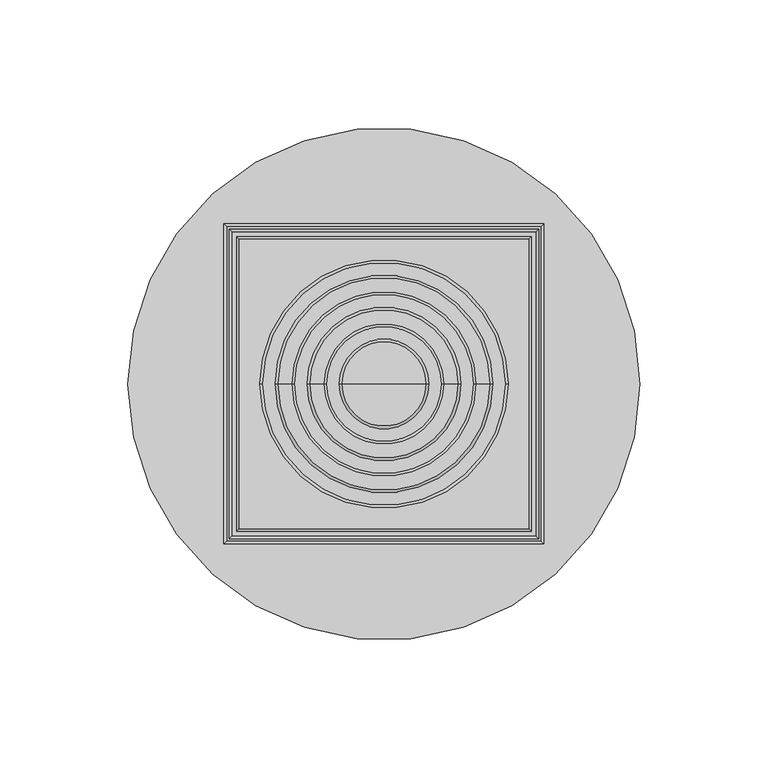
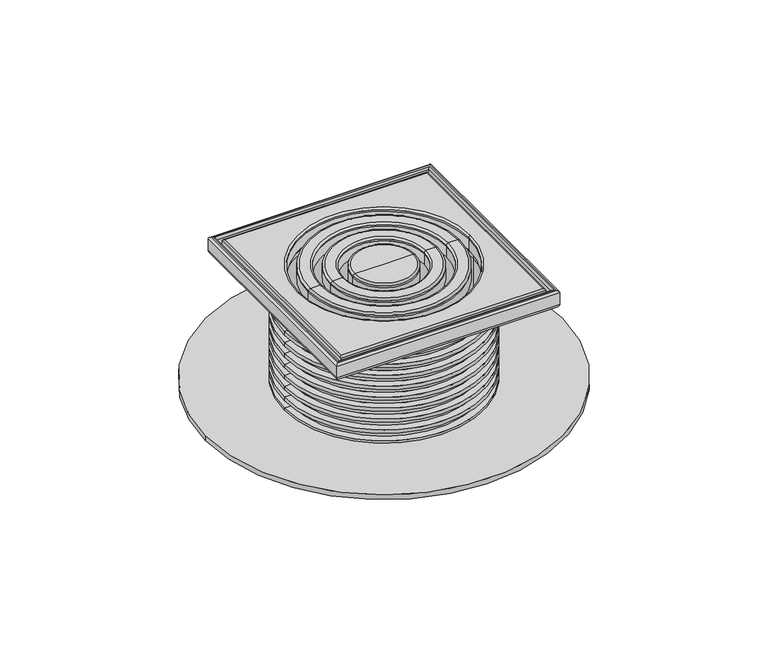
"""IFC4 building model written with IfcOpenShell, lengths in millimetres: flow terminal geometry."""

from ifc_helpers import new_model, si_unit, point, frame, origin, origin_with_axes, origin_2d, place, context, project, spatial, polyline, circle_curve, ellipse_curve, trimmed, segment, composite_curve, outline, extrude, source, transform, mapped, element, save
from ifc_brep_helpers import plane_surface, cylinder_surface, revolved_surface, advanced_brep


def flow_terminal_e0a92d88(model_context):
    return source(origin(), model_context, "Body", "SolidModel", [
        advanced_brep(
        [(59.5, -59.5, -8.0), (59.5, 59.5, -8.0), (-59.5, 59.5, -8.0), (-59.5, -59.5, -8.0), (0.0, -55.0, -8.0), (0.0, 55.0, -8.0), (60.5, 60.5, -10.0), (60.5, -60.5, -10.0), (-60.5, -60.5, -10.0), (-60.5, 60.5, -10.0), (56.5, 0.0, -10.0), (-56.5, 0.0, -10.0), (0.0, -55.0, -10.0), (-55.0, 0.0, -10.0), (0.0, 55.0, -10.0), (55.0, 0.0, -10.0), (62.5, 62.5, -8.0), (62.5, -62.5, -8.0), (59.5, -59.5, -1.0), (59.5, 59.5, -1.0), (62.5, 62.5, -1.0), (61.5, 61.5, 0.0), (61.5, -61.5, 0.0), (62.5, -62.5, -1.0), (-62.5, -62.5, -8.0), (-59.5, -59.5, -1.0), (-61.5, -61.5, 0.0), (-62.5, -62.5, -1.0), (-62.5, 62.5, -8.0), (-59.5, 59.5, -1.0), (-61.5, 61.5, 0.0), (-62.5, 62.5, -1.0), (60.5, -60.5, 0.0), (-60.5, -60.5, 0.0), (-60.5, 60.5, 0.0), (60.5, 60.5, 0.0), (-50.0, 0.0, -14.0), (50.0, 0.0, -14.0), (50.0, 0.0, -12.0), (-50.0, 0.0, -12.0), (-55.5, 0.0, -14.0), (55.5, 0.0, -14.0), (-51.0, 0.0, -10.0), (51.0, 0.0, -10.0), (-55.5, 0.0, -12.0), (55.5, 0.0, -12.0)],
        [
            (0, 1),
            (1, 2),
            (2, 3),
            (3, 0),
            (4, 5, circle_curve(frame((0.0, 0.0, -8.0), z_axis=(0.0, 0.0, -1.0), x_axis=(0.0, 1.0, 0.0)), 55.0)),
            (5, 4, circle_curve(frame((0.0, 0.0, -8.0), z_axis=(0.0, 0.0, -1.0), x_axis=(0.0, 1.0, 0.0)), 55.0)),
            (6, 7),
            (7, 8),
            (8, 9),
            (9, 6),
            (10, 11, circle_curve(frame((0.0, 0.0, -10.0), z_axis=(0.0, 0.0, 1.0), x_axis=(1.0, 0.0, 0.0)), 56.5)),
            (11, 10, circle_curve(frame((0.0, 0.0, -10.0), z_axis=(0.0, 0.0, 1.0), x_axis=(1.0, 0.0, 0.0)), 56.5)),
            (4, 12),
            (12, 13, circle_curve(frame((0.0, 0.0, -10.0), z_axis=(0.0, 0.0, -1.0), x_axis=(0.0, 1.0, 0.0)), 55.0)),
            (13, 14, circle_curve(frame((0.0, 0.0, -10.0), z_axis=(0.0, 0.0, -1.0), x_axis=(0.0, 1.0, 0.0)), 55.0)),
            (14, 5),
            (14, 15, circle_curve(frame((0.0, 0.0, -10.0), z_axis=(0.0, 0.0, -1.0), x_axis=(0.0, 1.0, 0.0)), 55.0)),
            (15, 12, circle_curve(frame((0.0, 0.0, -10.0), z_axis=(0.0, 0.0, -1.0), x_axis=(0.0, 1.0, 0.0)), 55.0)),
            (6, 16, ellipse_curve(frame((60.5, 60.5, -8.0), z_axis=(0.7071067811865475, -0.7071067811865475, 0.0), x_axis=(0.7071067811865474, 0.7071067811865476, 0.0)), 2.8284271, 2.0)),
            (16, 17),
            (17, 7, ellipse_curve(frame((60.5, -60.5, -8.0), z_axis=(0.7071067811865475, 0.7071067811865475, 0.0), x_axis=(-0.7071067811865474, 0.7071067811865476, 0.0)), 2.8284271, 2.0)),
            (18, 19),
            (19, 1),
            (0, 18),
            (20, 21, ellipse_curve(frame((61.5, 61.5, -1.0), z_axis=(0.7071067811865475, -0.7071067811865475, 0.0), x_axis=(0.7071067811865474, 0.7071067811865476, 0.0)), 1.4142136, 1.0)),
            (21, 22),
            (22, 23, ellipse_curve(frame((61.5, -61.5, -1.0), z_axis=(0.7071067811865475, 0.7071067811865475, 0.0), x_axis=(-0.7071067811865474, 0.7071067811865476, 0.0)), 1.4142136, 1.0)),
            (23, 20),
            (16, 20),
            (23, 17),
            (17, 24),
            (24, 8, ellipse_curve(frame((-60.5, -60.5, -8.0), z_axis=(0.7071067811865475, -0.7071067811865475, 0.0), x_axis=(0.7071067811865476, 0.7071067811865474, 0.0)), 2.8284271, 2.0)),
            (25, 18),
            (3, 25),
            (22, 26),
            (26, 27, ellipse_curve(frame((-61.5, -61.5, -1.0), z_axis=(0.7071067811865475, -0.7071067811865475, 0.0), x_axis=(0.7071067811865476, 0.7071067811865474, 0.0)), 1.4142136, 1.0)),
            (27, 23),
            (27, 24),
            (24, 28),
            (28, 9, ellipse_curve(frame((-60.5, 60.5, -8.0), z_axis=(-0.7071067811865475, -0.7071067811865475, 0.0), x_axis=(0.7071067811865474, -0.7071067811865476, 0.0)), 2.8284271, 2.0)),
            (29, 25),
            (2, 29),
            (26, 30),
            (30, 31, ellipse_curve(frame((-61.5, 61.5, -1.0), z_axis=(-0.7071067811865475, -0.7071067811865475, 0.0), x_axis=(0.7071067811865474, -0.7071067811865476, 0.0)), 1.4142136, 1.0)),
            (31, 27),
            (31, 28),
            (28, 16),
            (19, 29),
            (21, 30),
            (32, 33),
            (33, 34),
            (34, 35),
            (35, 32),
            (20, 31),
            (18, 32, ellipse_curve(frame((60.5, -60.5, -1.0), z_axis=(0.7071067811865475, 0.7071067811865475, 0.0), x_axis=(-0.7071067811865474, 0.7071067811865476, 0.0)), 1.4142136, 1.0)),
            (35, 19, ellipse_curve(frame((60.5, 60.5, -1.0), z_axis=(0.7071067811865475, -0.7071067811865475, 0.0), x_axis=(0.7071067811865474, 0.7071067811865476, 0.0)), 1.4142136, 1.0)),
            (25, 33, ellipse_curve(frame((-60.5, -60.5, -1.0), z_axis=(0.7071067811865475, -0.7071067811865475, 0.0), x_axis=(0.7071067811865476, 0.7071067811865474, 0.0)), 1.4142136, 1.0)),
            (29, 34, ellipse_curve(frame((-60.5, 60.5, -1.0), z_axis=(-0.7071067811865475, -0.7071067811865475, 0.0), x_axis=(0.7071067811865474, -0.7071067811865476, 0.0)), 1.4142136, 1.0)),
            (36, 37, circle_curve(frame((0.0, 0.0, -14.0), z_axis=(0.0, 0.0, -1.0), x_axis=(1.0, 0.0, 0.0)), 50.0)),
            (37, 38),
            (38, 39, circle_curve(frame((0.0, 0.0, -12.0), z_axis=(0.0, 0.0, 1.0), x_axis=(1.0, 0.0, 0.0)), 50.0)),
            (39, 36),
            (37, 36, circle_curve(frame((0.0, 0.0, -14.0), z_axis=(0.0, 0.0, -1.0), x_axis=(1.0, 0.0, 0.0)), 50.0)),
            (39, 38, circle_curve(frame((0.0, 0.0, -12.0), z_axis=(0.0, 0.0, 1.0), x_axis=(1.0, 0.0, 0.0)), 50.0)),
            (36, 40),
            (40, 41, circle_curve(frame((0.0, 0.0, -14.0), z_axis=(0.0, 0.0, -1.0), x_axis=(1.0, 0.0, 0.0)), 55.5)),
            (41, 37),
            (41, 40, circle_curve(frame((0.0, 0.0, -14.0), z_axis=(0.0, 0.0, -1.0), x_axis=(1.0, 0.0, 0.0)), 55.5)),
            (42, 43, circle_curve(frame((0.0, 0.0, -10.0), z_axis=(0.0, 0.0, -1.0), x_axis=(1.0, 0.0, 0.0)), 51.0)),
            (43, 15),
            (13, 42),
            (43, 42, circle_curve(frame((0.0, 0.0, -10.0), z_axis=(0.0, 0.0, -1.0), x_axis=(1.0, 0.0, 0.0)), 51.0)),
            (40, 44),
            (44, 45, circle_curve(frame((0.0, 0.0, -12.0), z_axis=(0.0, 0.0, -1.0), x_axis=(1.0, 0.0, 0.0)), 55.5)),
            (45, 41),
            (45, 44, circle_curve(frame((0.0, 0.0, -12.0), z_axis=(0.0, 0.0, -1.0), x_axis=(1.0, 0.0, 0.0)), 55.5)),
            (44, 11),
            (10, 45),
            (38, 43),
            (42, 39),
        ],
        [
            plane_surface(frame((-59.5, 59.5, -8.0), z_axis=(0.0, 0.0, 1.0), x_axis=(-1.0, 0.0, 0.0))),
            plane_surface(frame((-59.5, 59.5, -10.0), z_axis=(0.0, 0.0, -1.0), x_axis=(1.0, 0.0, 0.0))),
            revolved_surface(polyline([(0.0, 55.0, -10.0), (0.0, 55.0, -8.0)]), (0.0, 0.0, -10.0), (0.0, 0.0, -1.0)),
            cylinder_surface(frame((60.5, 62.5, -8.0), z_axis=(0.0, 1.0, 0.0), x_axis=(1.0, 0.0, 0.0)), 2.0),
            plane_surface(frame((59.5, 59.5, -10.0), z_axis=(-1.0, 0.0, 0.0), x_axis=(0.0, -1.0, 0.0))),
            cylinder_surface(frame((61.5, 62.5, -1.0), z_axis=(0.0, 1.0, 0.0), x_axis=(1.0, 0.0, 0.0)), 1.0),
            plane_surface(frame((62.5, 62.5, -1.0), z_axis=(1.0, 0.0, 0.0), x_axis=(0.0, -1.0, 0.0))),
            cylinder_surface(frame((62.5, -60.5, -8.0), z_axis=(1.0, 0.0, 0.0), x_axis=(0.0, -1.0, 0.0)), 2.0),
            plane_surface(frame((59.5, -59.5, -10.0), z_axis=(0.0, 1.0, 0.0), x_axis=(-1.0, 0.0, 0.0))),
            cylinder_surface(frame((62.5, -61.5, -1.0), z_axis=(1.0, 0.0, 0.0), x_axis=(0.0, -1.0, 0.0)), 1.0),
            plane_surface(frame((62.5, -62.5, -1.0), z_axis=(0.0, -1.0, 0.0), x_axis=(-1.0, 0.0, 0.0))),
            cylinder_surface(frame((-60.5, -62.5, -8.0), z_axis=(0.0, -1.0, 0.0), x_axis=(-1.0, 0.0, 0.0)), 2.0),
            plane_surface(frame((-59.5, -59.5, -10.0), z_axis=(1.0, 0.0, 0.0), x_axis=(0.0, 1.0, 0.0))),
            cylinder_surface(frame((-61.5, -62.5, -1.0), z_axis=(0.0, -1.0, 0.0), x_axis=(-1.0, 0.0, 0.0)), 1.0),
            plane_surface(frame((-62.5, -62.5, -1.0), z_axis=(-1.0, 0.0, 0.0), x_axis=(0.0, 1.0, 0.0))),
            cylinder_surface(frame((-62.5, 60.5, -8.0), z_axis=(-1.0, 0.0, 0.0), x_axis=(0.0, 1.0, 0.0)), 2.0),
            plane_surface(frame((-59.5, 59.5, -10.0), z_axis=(0.0, -1.0, 0.0), x_axis=(1.0, 0.0, 0.0))),
            plane_surface(frame((-60.5, 60.5, 0.0), z_axis=(0.0, 0.0, 1.0), x_axis=(1.0, 0.0, 0.0))),
            cylinder_surface(frame((-62.5, 61.5, -1.0), z_axis=(-1.0, 0.0, 0.0), x_axis=(0.0, 1.0, 0.0)), 1.0),
            plane_surface(frame((-62.5, 62.5, -1.0), z_axis=(0.0, 1.0, 0.0), x_axis=(1.0, 0.0, 0.0))),
            cylinder_surface(frame((60.5, 62.5, -1.0), z_axis=(0.0, 1.0, 0.0), x_axis=(1.0, 0.0, 0.0)), 1.0),
            cylinder_surface(frame((62.5, -60.5, -1.0), z_axis=(1.0, 0.0, 0.0), x_axis=(0.0, -1.0, 0.0)), 1.0),
            cylinder_surface(frame((-60.5, -62.5, -1.0), z_axis=(0.0, -1.0, 0.0), x_axis=(-1.0, 0.0, 0.0)), 1.0),
            cylinder_surface(frame((-62.5, 60.5, -1.0), z_axis=(-1.0, 0.0, 0.0), x_axis=(0.0, 1.0, 0.0)), 1.0),
            revolved_surface(polyline([(50.0, 0.0, -12.0), (50.0, 0.0, -14.0)]), (0.0, 0.0, 2214.3150031), (0.0, 0.0, 1.0)),
            plane_surface(frame((0.0, 0.0, -14.0), z_axis=(0.0, 0.0, -1.0), x_axis=(1.0, 0.0, 0.0))),
            plane_surface(frame((0.0, 0.0, -10.0), z_axis=(0.0, 0.0, 1.0), x_axis=(1.0, 0.0, 0.0))),
            cylinder_surface(frame((0.0, 0.0, 2214.3150031), z_axis=(0.0, 0.0, 1.0), x_axis=(1.0, 0.0, 0.0)), 55.5),
            revolved_surface(polyline([(55.5, 0.0, -12.0), (56.5, 0.0, -10.0)]), (0.0, 0.0, 2214.3150031), (0.0, 0.0, 1.0)),
            revolved_surface(polyline([(51.0, 0.0, -10.0), (50.0, 0.0, -12.0)]), (0.0, 0.0, 2214.3150031), (0.0, 0.0, 1.0)),
        ],
        [
            (0, [[1, 2, 3, 4], [5, 6]]),
            (1, [[7, 8, 9, 10], [11, 12]]),
            (2, [[-5, 13, 14, 15, 16]]),
            (2, [[-6, -16, 17, 18, -13]]),
            (3, [[19, 20, 21, -7]]),
            (4, [[22, 23, -1, 24]]),
            (5, [[25, 26, 27, 28]]),
            (6, [[-20, 29, -28, 30]]),
            (7, [[-21, 31, 32, -8]]),
            (8, [[33, -24, -4, 34]]),
            (9, [[-27, 35, 36, 37]]),
            (10, [[-30, -37, 38, -31]]),
            (11, [[-32, 39, 40, -9]]),
            (12, [[41, -34, -3, 42]]),
            (13, [[-36, 43, 44, 45]]),
            (14, [[-38, -45, 46, -39]]),
            (15, [[-19, -10, -40, 47]]),
            (16, [[48, -42, -2, -23]]),
            (17, [[-26, 49, -43, -35], [50, 51, 52, 53]]),
            (18, [[-25, 54, -44, -49]]),
            (19, [[-29, -47, -46, -54]]),
            (20, [[-22, 55, -53, 56]]),
            (21, [[-33, 57, -50, -55]]),
            (22, [[-41, 58, -51, -57]]),
            (23, [[-48, -56, -52, -58]]),
            (24, [[59, 60, 61, 62]]),
            (24, [[-60, 63, -62, 64]]),
            (25, [[-59, 65, 66, 67]]),
            (25, [[-63, -67, 68, -65]]),
            (26, [[69, 70, -17, -15, 71]]),
            (26, [[72, -71, -14, -18, -70]]),
            (27, [[-66, 73, 74, 75]]),
            (27, [[-68, -75, 76, -73]]),
            (28, [[-74, 77, -11, 78]]),
            (28, [[-76, -78, -12, -77]]),
            (29, [[-61, 79, -69, 80]]),
            (29, [[-64, -80, -72, -79]]),
        ],
    ),
        advanced_brep(
        [(57.5, -57.5, -8.0), (-57.5, -57.5, -8.0), (-57.5, 57.5, -8.0), (57.5, 57.5, -8.0), (-47.5, 0.0, -8.0), (47.5, 0.0, -8.0), (57.5, 57.5, -1.0), (57.5, -57.5, -1.0), (-57.5, 57.5, -1.0), (-57.5, -57.5, -1.0), (47.5, 0.0, -2.0), (-47.5, 0.0, -2.0), (47.5, 0.0, -1.0), (-47.5, 0.0, -1.0), (-56.5, -56.5, 0.0), (56.5, -56.5, 0.0), (56.5, 56.5, 0.0), (-56.5, 56.5, 0.0), (-48.5, 0.0, 0.0), (48.5, 0.0, 0.0)],
        [
            (0, 1),
            (1, 2),
            (2, 3),
            (3, 0),
            (4, 5, circle_curve(frame((0.0, 0.0, -8.0), z_axis=(0.0, 0.0, 1.0), x_axis=(1.0, 0.0, 0.0)), 47.5)),
            (5, 4, circle_curve(frame((0.0, 0.0, -8.0), z_axis=(0.0, 0.0, 1.0), x_axis=(1.0, 0.0, 0.0)), 47.5)),
            (3, 6),
            (6, 7),
            (7, 0),
            (2, 8),
            (8, 6),
            (1, 9),
            (9, 8),
            (7, 9),
            (5, 10),
            (10, 11, circle_curve(frame((0.0, 0.0, -2.0), z_axis=(0.0, 0.0, 1.0), x_axis=(1.0, 0.0, 0.0)), 47.5)),
            (11, 4),
            (11, 10, circle_curve(frame((0.0, 0.0, -2.0), z_axis=(0.0, 0.0, 1.0), x_axis=(1.0, 0.0, 0.0)), 47.5)),
            (10, 12),
            (12, 13, circle_curve(frame((0.0, 0.0, -1.0), z_axis=(0.0, 0.0, 1.0), x_axis=(1.0, 0.0, 0.0)), 47.5)),
            (13, 11),
            (13, 12, circle_curve(frame((0.0, 0.0, -1.0), z_axis=(0.0, 0.0, 1.0), x_axis=(1.0, 0.0, 0.0)), 47.5)),
            (14, 15),
            (15, 16),
            (16, 17),
            (17, 14),
            (18, 19, circle_curve(frame((0.0, 0.0, 0.0), z_axis=(0.0, 0.0, -1.0), x_axis=(1.0, 0.0, 0.0)), 48.5)),
            (19, 18, circle_curve(frame((0.0, 0.0, 0.0), z_axis=(0.0, 0.0, -1.0), x_axis=(1.0, 0.0, 0.0)), 48.5)),
            (12, 19, circle_curve(frame((48.5, 0.0, -1.0), z_axis=(0.0, 1.0, 0.0), x_axis=(1.0, 0.0, 0.0)), 1.0)),
            (18, 13, circle_curve(frame((-48.5, 0.0, -1.0), z_axis=(0.0, 1.0, 0.0), x_axis=(-1.0, 0.0, 0.0)), 1.0)),
            (14, 9, ellipse_curve(frame((-56.5, -56.5, -1.0), z_axis=(0.7071067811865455, -0.7071067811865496, 0.0), x_axis=(-0.7071067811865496, -0.7071067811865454, 0.0)), 1.4142136, 1.0)),
            (7, 15, ellipse_curve(frame((56.5, -56.5, -1.0), z_axis=(-0.7071067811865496, -0.7071067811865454, 0.0), x_axis=(-0.7071067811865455, 0.7071067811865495, 0.0)), 1.4142136, 1.0)),
            (6, 16, ellipse_curve(frame((56.5, 56.5, -1.0), z_axis=(0.7071067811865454, -0.7071067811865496, 0.0), x_axis=(-0.7071067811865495, -0.7071067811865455, 0.0)), 1.4142136, 1.0)),
            (8, 17, ellipse_curve(frame((-56.5, 56.5, -1.0), z_axis=(0.7071067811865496, 0.7071067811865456, 0.0), x_axis=(0.7071067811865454, -0.7071067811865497, 0.0)), 1.4142136, 1.0)),
        ],
        [
            plane_surface(frame((57.5, -27.9226907, -8.0), z_axis=(0.0, 0.0, -1.0), x_axis=(0.0, -1.0, 0.0))),
            plane_surface(frame((57.5, -57.5, -2.0), z_axis=(1.0, 0.0, 0.0), x_axis=(0.0, 0.0, -1.0))),
            plane_surface(frame((57.5, 57.5, -2.0), z_axis=(0.0, 1.0, 0.0), x_axis=(0.0, 0.0, -1.0))),
            plane_surface(frame((-57.5, 57.5, -2.0), z_axis=(-1.0, 0.0, 0.0), x_axis=(0.0, 0.0, -1.0))),
            plane_surface(frame((-57.5, -57.5, -2.0), z_axis=(0.0, -1.0, 0.0), x_axis=(0.0, 0.0, -1.0))),
            revolved_surface(polyline([(47.5, 0.0, -8.0), (47.5, 0.0, -2.0)]), (0.0, 0.0, 0.0), (0.0, 0.0, -1.0)),
            revolved_surface(polyline([(47.5, 0.0, -1.0), (47.5, 0.0, -2.0)]), (0.0, 0.0, 2214.3150031), (0.0, 0.0, 1.0)),
            plane_surface(origin_with_axes()),
            revolved_surface(trimmed(ellipse_curve(frame((48.5, 0.0, -1.0), z_axis=(0.0, -1.0, 0.0), x_axis=(1.0, 0.0, 0.0)), 1.0, 1.0), [point((48.5, 0.0, 0.0))], [point((47.5, 0.0, -1.0))], True, "CARTESIAN"), (0.0, 0.0, 2214.3150031), (0.0, 0.0, 1.0)),
            cylinder_surface(frame((-57.5, -56.5, -1.0), z_axis=(-1.0, 0.0, 0.0), x_axis=(0.0, 1.0, 0.0)), 1.0),
            cylinder_surface(frame((56.5, -57.5, -1.0), z_axis=(0.0, -1.0, 0.0), x_axis=(-1.0, 0.0, 0.0)), 1.0),
            cylinder_surface(frame((57.5, 56.5, -1.0), z_axis=(1.0, 0.0, 0.0), x_axis=(0.0, -1.0, 0.0)), 1.0),
            cylinder_surface(frame((-56.5, 57.5, -1.0), z_axis=(0.0, 1.0, 0.0), x_axis=(1.0, 0.0, 0.0)), 1.0),
        ],
        [
            (0, [[1, 2, 3, 4], [5, 6]]),
            (1, [[-4, 7, 8, 9]]),
            (2, [[-3, 10, 11, -7]]),
            (3, [[-2, 12, 13, -10]]),
            (4, [[-1, -9, 14, -12]]),
            (5, [[-6, 15, 16, 17]]),
            (5, [[-5, -17, 18, -15]]),
            (6, [[19, 20, 21, -16]]),
            (6, [[-19, -18, -21, 22]]),
            (7, [[23, 24, 25, 26], [27, 28]]),
            (8, [[-20, 29, -27, 30]]),
            (8, [[-22, -30, -28, -29]]),
            (9, [[31, -14, 32, -23]]),
            (10, [[-32, -8, 33, -24]]),
            (11, [[-33, -11, 34, -25]]),
            (12, [[-31, -26, -34, -13]]),
        ],
    ),
        advanced_brep(
        [(-17.5, 0.0, -8.0), (17.5, 0.0, -8.0), (17.5, 0.0, -2.0), (-17.5, 0.0, -2.0), (-17.5, 0.0, -1.0), (17.5, 0.0, -1.0), (-16.5, 0.0, 0.0), (16.5, 0.0, 0.0), (0.0, 0.0, 0.0)],
        [
            (0, 1, circle_curve(frame((0.0, 0.0, -8.0), z_axis=(0.0, 0.0, -1.0), x_axis=(1.0, 0.0, 0.0)), 17.5)),
            (1, 0, circle_curve(frame((0.0, 0.0, -8.0), z_axis=(0.0, 0.0, -1.0), x_axis=(1.0, 0.0, 0.0)), 17.5)),
            (1, 2),
            (2, 3, circle_curve(frame((0.0, 0.0, -2.0), z_axis=(0.0, 0.0, -1.0), x_axis=(1.0, 0.0, 0.0)), 17.5)),
            (3, 0),
            (3, 2, circle_curve(frame((0.0, 0.0, -2.0), z_axis=(0.0, 0.0, -1.0), x_axis=(1.0, 0.0, 0.0)), 17.5)),
            (4, 5, circle_curve(frame((0.0, 0.0, -1.0), z_axis=(0.0, 0.0, -1.0), x_axis=(1.0, 0.0, 0.0)), 17.5)),
            (5, 2),
            (3, 4),
            (5, 4, circle_curve(frame((0.0, 0.0, -1.0), z_axis=(0.0, 0.0, -1.0), x_axis=(1.0, 0.0, 0.0)), 17.5)),
            (4, 6, circle_curve(frame((-16.5, 0.0, -1.0), z_axis=(0.0, 1.0, 0.0), x_axis=(-1.0, 0.0, 0.0)), 1.0)),
            (6, 7, circle_curve(frame((0.0, 0.0, 0.0), z_axis=(0.0, 0.0, -1.0), x_axis=(1.0, 0.0, 0.0)), 16.5)),
            (7, 5, circle_curve(frame((16.5, 0.0, -1.0), z_axis=(0.0, 1.0, 0.0), x_axis=(1.0, 0.0, 0.0)), 1.0)),
            (7, 6, circle_curve(frame((0.0, 0.0, 0.0), z_axis=(0.0, 0.0, -1.0), x_axis=(1.0, 0.0, 0.0)), 16.5)),
            (6, 8),
            (8, 7),
        ],
        [
            plane_surface(frame((57.5, -27.9226907, -8.0), z_axis=(0.0, 0.0, -1.0), x_axis=(0.0, -1.0, 0.0))),
            cylinder_surface(origin_with_axes(), 17.5),
            cylinder_surface(frame((0.0, 0.0, 2214.3150031), z_axis=(0.0, 0.0, 1.0), x_axis=(1.0, 0.0, 0.0)), 17.5),
            revolved_surface(trimmed(ellipse_curve(frame((16.5, 0.0, -1.0), z_axis=(0.0, -1.0, 0.0), x_axis=(1.0, 0.0, 0.0)), 1.0, 1.0), [point((17.5, 0.0, -1.0))], [point((16.5, 0.0, 0.0))], True, "CARTESIAN"), (0.0, 0.0, 2214.3150031), (0.0, 0.0, 1.0)),
            plane_surface(origin_with_axes()),
        ],
        [
            (0, [[1, 2]]),
            (1, [[-2, 3, 4, 5]]),
            (1, [[-1, -5, 6, -3]]),
            (2, [[7, 8, -6, 9]]),
            (2, [[-8, 10, -9, -4]]),
            (3, [[-7, 11, 12, 13]]),
            (3, [[-10, -13, 14, -11]]),
            (4, [[-12, 15, 16]]),
            (4, [[-14, -16, -15]]),
        ],
    ),
        advanced_brep(
        [(-30.0, 0.0, -8.0), (30.0, 0.0, -8.0), (-22.5, 0.0, -8.0), (22.5, 0.0, -8.0), (22.5, 0.0, -2.0), (-22.5, 0.0, -2.0), (30.0, 0.0, -2.0), (-30.0, 0.0, -2.0), (-29.0, 0.0, 0.0), (29.0, 0.0, 0.0), (30.0, 0.0, -1.0), (-30.0, 0.0, -1.0), (-23.5, 0.0, 0.0), (23.5, 0.0, 0.0), (-22.5, 0.0, -1.0), (22.5, 0.0, -1.0)],
        [
            (0, 1, circle_curve(frame((0.0, 0.0, -8.0), z_axis=(0.0, 0.0, -1.0), x_axis=(1.0, 0.0, 0.0)), 30.0)),
            (1, 0, circle_curve(frame((0.0, 0.0, -8.0), z_axis=(0.0, 0.0, -1.0), x_axis=(1.0, 0.0, 0.0)), 30.0)),
            (2, 3, circle_curve(frame((0.0, 0.0, -8.0), z_axis=(0.0, 0.0, 1.0), x_axis=(1.0, 0.0, 0.0)), 22.5)),
            (3, 2, circle_curve(frame((0.0, 0.0, -8.0), z_axis=(0.0, 0.0, 1.0), x_axis=(1.0, 0.0, 0.0)), 22.5)),
            (3, 4),
            (4, 5, circle_curve(frame((0.0, 0.0, -2.0), z_axis=(0.0, 0.0, 1.0), x_axis=(1.0, 0.0, 0.0)), 22.5)),
            (5, 2),
            (5, 4, circle_curve(frame((0.0, 0.0, -2.0), z_axis=(0.0, 0.0, 1.0), x_axis=(1.0, 0.0, 0.0)), 22.5)),
            (1, 6),
            (6, 7, circle_curve(frame((0.0, 0.0, -2.0), z_axis=(0.0, 0.0, -1.0), x_axis=(1.0, 0.0, 0.0)), 30.0)),
            (7, 0),
            (7, 6, circle_curve(frame((0.0, 0.0, -2.0), z_axis=(0.0, 0.0, -1.0), x_axis=(1.0, 0.0, 0.0)), 30.0)),
            (8, 9, circle_curve(frame((0.0, 0.0, 0.0), z_axis=(0.0, 0.0, -1.0), x_axis=(1.0, 0.0, 0.0)), 29.0)),
            (9, 10, circle_curve(frame((29.0, 0.0, -1.0), z_axis=(0.0, 1.0, 0.0), x_axis=(1.0, 0.0, 0.0)), 1.0)),
            (10, 11, circle_curve(frame((0.0, 0.0, -1.0), z_axis=(0.0, 0.0, 1.0), x_axis=(1.0, 0.0, 0.0)), 30.0)),
            (11, 8, circle_curve(frame((-29.0, 0.0, -1.0), z_axis=(0.0, 1.0, 0.0), x_axis=(-1.0, 0.0, 0.0)), 1.0)),
            (9, 8, circle_curve(frame((0.0, 0.0, 0.0), z_axis=(0.0, 0.0, -1.0), x_axis=(1.0, 0.0, 0.0)), 29.0)),
            (11, 10, circle_curve(frame((0.0, 0.0, -1.0), z_axis=(0.0, 0.0, 1.0), x_axis=(1.0, 0.0, 0.0)), 30.0)),
            (8, 12),
            (12, 13, circle_curve(frame((0.0, 0.0, 0.0), z_axis=(0.0, 0.0, -1.0), x_axis=(1.0, 0.0, 0.0)), 23.5)),
            (13, 9),
            (13, 12, circle_curve(frame((0.0, 0.0, 0.0), z_axis=(0.0, 0.0, -1.0), x_axis=(1.0, 0.0, 0.0)), 23.5)),
            (12, 14, circle_curve(frame((-23.5, 0.0, -1.0), z_axis=(0.0, 1.0, 0.0), x_axis=(-1.0, 0.0, 0.0)), 1.0)),
            (14, 15, circle_curve(frame((0.0, 0.0, -1.0), z_axis=(0.0, 0.0, -1.0), x_axis=(1.0, 0.0, 0.0)), 22.5)),
            (15, 13, circle_curve(frame((23.5, 0.0, -1.0), z_axis=(0.0, 1.0, 0.0), x_axis=(1.0, 0.0, 0.0)), 1.0)),
            (15, 14, circle_curve(frame((0.0, 0.0, -1.0), z_axis=(0.0, 0.0, -1.0), x_axis=(1.0, 0.0, 0.0)), 22.5)),
            (14, 5),
            (4, 15),
            (10, 6),
            (7, 11),
        ],
        [
            plane_surface(frame((57.5, -27.9226907, -8.0), z_axis=(0.0, 0.0, -1.0), x_axis=(0.0, -1.0, 0.0))),
            revolved_surface(polyline([(22.5, 0.0, -8.0), (22.5, 0.0, -2.0)]), (0.0, 0.0, 0.0), (0.0, 0.0, -1.0)),
            cylinder_surface(origin_with_axes(), 30.0),
            revolved_surface(trimmed(ellipse_curve(frame((29.0, 0.0, -1.0), z_axis=(0.0, -1.0, 0.0), x_axis=(1.0, 0.0, 0.0)), 1.0, 1.0), [point((30.0, 0.0, -1.0))], [point((29.0, 0.0, 0.0))], True, "CARTESIAN"), (0.0, 0.0, 2214.3150031), (0.0, 0.0, 1.0)),
            plane_surface(origin_with_axes()),
            revolved_surface(trimmed(ellipse_curve(frame((23.5, 0.0, -1.0), z_axis=(0.0, -1.0, 0.0), x_axis=(1.0, 0.0, 0.0)), 1.0, 1.0), [point((23.5, 0.0, 0.0))], [point((22.5, 0.0, -1.0))], True, "CARTESIAN"), (0.0, 0.0, 2214.3150031), (0.0, 0.0, 1.0)),
            revolved_surface(polyline([(22.5, 0.0, -1.0), (22.5, 0.0, -2.0)]), (0.0, 0.0, 2214.3150031), (0.0, 0.0, 1.0)),
            cylinder_surface(frame((0.0, 0.0, 2214.3150031), z_axis=(0.0, 0.0, 1.0), x_axis=(1.0, 0.0, 0.0)), 30.0),
        ],
        [
            (0, [[1, 2], [3, 4]]),
            (1, [[-4, 5, 6, 7]]),
            (1, [[-3, -7, 8, -5]]),
            (2, [[-2, 9, 10, 11]]),
            (2, [[-1, -11, 12, -9]]),
            (3, [[13, 14, 15, 16]]),
            (3, [[-14, 17, -16, 18]]),
            (4, [[-13, 19, 20, 21]]),
            (4, [[-17, -21, 22, -19]]),
            (5, [[-20, 23, 24, 25]]),
            (5, [[-22, -25, 26, -23]]),
            (6, [[-24, 27, -6, 28]]),
            (6, [[-26, -28, -8, -27]]),
            (7, [[-15, 29, -12, 30]]),
            (7, [[-18, -30, -10, -29]]),
        ],
    ),
        advanced_brep(
        [(-42.5, 0.0, -8.0), (42.5, 0.0, -8.0), (-35.0, 0.0, -8.0), (35.0, 0.0, -8.0), (35.0, 0.0, -2.0), (-35.0, 0.0, -2.0), (42.5, 0.0, -2.0), (-42.5, 0.0, -2.0), (-41.5, 0.0, 0.0), (41.5, 0.0, 0.0), (42.5, 0.0, -1.0), (-42.5, 0.0, -1.0), (-36.0, 0.0, 0.0), (36.0, 0.0, 0.0), (-35.0, 0.0, -1.0), (35.0, 0.0, -1.0)],
        [
            (0, 1, circle_curve(frame((0.0, 0.0, -8.0), z_axis=(0.0, 0.0, -1.0), x_axis=(1.0, 0.0, 0.0)), 42.5)),
            (1, 0, circle_curve(frame((0.0, 0.0, -8.0), z_axis=(0.0, 0.0, -1.0), x_axis=(1.0, 0.0, 0.0)), 42.5)),
            (2, 3, circle_curve(frame((0.0, 0.0, -8.0), z_axis=(0.0, 0.0, 1.0), x_axis=(1.0, 0.0, 0.0)), 35.0)),
            (3, 2, circle_curve(frame((0.0, 0.0, -8.0), z_axis=(0.0, 0.0, 1.0), x_axis=(1.0, 0.0, 0.0)), 35.0)),
            (3, 4),
            (4, 5, circle_curve(frame((0.0, 0.0, -2.0), z_axis=(0.0, 0.0, 1.0), x_axis=(1.0, 0.0, 0.0)), 35.0)),
            (5, 2),
            (5, 4, circle_curve(frame((0.0, 0.0, -2.0), z_axis=(0.0, 0.0, 1.0), x_axis=(1.0, 0.0, 0.0)), 35.0)),
            (1, 6),
            (6, 7, circle_curve(frame((0.0, 0.0, -2.0), z_axis=(0.0, 0.0, -1.0), x_axis=(1.0, 0.0, 0.0)), 42.5)),
            (7, 0),
            (7, 6, circle_curve(frame((0.0, 0.0, -2.0), z_axis=(0.0, 0.0, -1.0), x_axis=(1.0, 0.0, 0.0)), 42.5)),
            (8, 9, circle_curve(frame((0.0, 0.0, 0.0), z_axis=(0.0, 0.0, -1.0), x_axis=(1.0, 0.0, 0.0)), 41.5)),
            (9, 10, circle_curve(frame((41.5, 0.0, -1.0), z_axis=(0.0, 1.0, 0.0), x_axis=(1.0, 0.0, 0.0)), 1.0)),
            (10, 11, circle_curve(frame((0.0, 0.0, -1.0), z_axis=(0.0, 0.0, 1.0), x_axis=(1.0, 0.0, 0.0)), 42.5)),
            (11, 8, circle_curve(frame((-41.5, 0.0, -1.0), z_axis=(0.0, 1.0, 0.0), x_axis=(-1.0, 0.0, 0.0)), 1.0)),
            (9, 8, circle_curve(frame((0.0, 0.0, 0.0), z_axis=(0.0, 0.0, -1.0), x_axis=(1.0, 0.0, 0.0)), 41.5)),
            (11, 10, circle_curve(frame((0.0, 0.0, -1.0), z_axis=(0.0, 0.0, 1.0), x_axis=(1.0, 0.0, 0.0)), 42.5)),
            (8, 12),
            (12, 13, circle_curve(frame((0.0, 0.0, 0.0), z_axis=(0.0, 0.0, -1.0), x_axis=(1.0, 0.0, 0.0)), 36.0)),
            (13, 9),
            (13, 12, circle_curve(frame((0.0, 0.0, 0.0), z_axis=(0.0, 0.0, -1.0), x_axis=(1.0, 0.0, 0.0)), 36.0)),
            (12, 14, circle_curve(frame((-36.0, 0.0, -1.0), z_axis=(0.0, 1.0, 0.0), x_axis=(-1.0, 0.0, 0.0)), 1.0)),
            (14, 15, circle_curve(frame((0.0, 0.0, -1.0), z_axis=(0.0, 0.0, -1.0), x_axis=(1.0, 0.0, 0.0)), 35.0)),
            (15, 13, circle_curve(frame((36.0, 0.0, -1.0), z_axis=(0.0, 1.0, 0.0), x_axis=(1.0, 0.0, 0.0)), 1.0)),
            (15, 14, circle_curve(frame((0.0, 0.0, -1.0), z_axis=(0.0, 0.0, -1.0), x_axis=(1.0, 0.0, 0.0)), 35.0)),
            (14, 5),
            (4, 15),
            (10, 6),
            (7, 11),
        ],
        [
            plane_surface(frame((57.5, -27.9226907, -8.0), z_axis=(0.0, 0.0, -1.0), x_axis=(0.0, -1.0, 0.0))),
            revolved_surface(polyline([(35.0, 0.0, -8.0), (35.0, 0.0, -2.0)]), (0.0, 0.0, 0.0), (0.0, 0.0, -1.0)),
            cylinder_surface(origin_with_axes(), 42.5),
            revolved_surface(trimmed(ellipse_curve(frame((41.5, 0.0, -1.0), z_axis=(0.0, -1.0, 0.0), x_axis=(1.0, 0.0, 0.0)), 1.0, 1.0), [point((42.5, 0.0, -1.0))], [point((41.5, 0.0, 0.0))], True, "CARTESIAN"), (0.0, 0.0, 2214.3150031), (0.0, 0.0, 1.0)),
            plane_surface(origin_with_axes()),
            revolved_surface(trimmed(ellipse_curve(frame((36.0, 0.0, -1.0), z_axis=(0.0, -1.0, 0.0), x_axis=(1.0, 0.0, 0.0)), 1.0, 1.0), [point((36.0, 0.0, 0.0))], [point((35.0, 0.0, -1.0))], True, "CARTESIAN"), (0.0, 0.0, 2214.3150031), (0.0, 0.0, 1.0)),
            revolved_surface(polyline([(35.0, 0.0, -1.0), (35.0, 0.0, -2.0)]), (0.0, 0.0, 2214.3150031), (0.0, 0.0, 1.0)),
            cylinder_surface(frame((0.0, 0.0, 2214.3150031), z_axis=(0.0, 0.0, 1.0), x_axis=(1.0, 0.0, 0.0)), 42.5),
        ],
        [
            (0, [[1, 2], [3, 4]]),
            (1, [[-4, 5, 6, 7]]),
            (1, [[-3, -7, 8, -5]]),
            (2, [[-2, 9, 10, 11]]),
            (2, [[-1, -11, 12, -9]]),
            (3, [[13, 14, 15, 16]]),
            (3, [[-14, 17, -16, 18]]),
            (4, [[-13, 19, 20, 21]]),
            (4, [[-17, -21, 22, -19]]),
            (5, [[-20, 23, 24, 25]]),
            (5, [[-22, -25, 26, -23]]),
            (6, [[-24, 27, -6, 28]]),
            (6, [[-26, -28, -8, -27]]),
            (7, [[-15, 29, -12, 30]]),
            (7, [[-18, -30, -10, -29]]),
        ],
    ),
        advanced_brep(
        [(-50.0, 0.0, -12.0), (50.0, 0.0, -12.0), (52.0, 0.0, -12.0), (-52.0, 0.0, -12.0), (-52.0, 0.0, -68.0), (52.0, 0.0, -68.0), (52.0, 0.0, -70.0), (-52.0, 0.0, -70.0), (-56.0, 0.0, -68.0), (56.0, 0.0, -68.0), (-56.0, 0.0, -66.0), (56.0, 0.0, -66.0), (-52.0, 0.0, -66.0), (52.0, 0.0, -66.0), (-52.0, 0.0, -61.5), (52.0, 0.0, -61.5), (-56.0, 0.0, -61.5), (56.0, 0.0, -61.5), (-56.0, 0.0, -59.5), (56.0, 0.0, -59.5), (-52.0, 0.0, -59.5), (52.0, 0.0, -59.5), (-52.0, 0.0, -55.0), (52.0, 0.0, -55.0), (-56.0, 0.0, -55.0), (56.0, 0.0, -55.0), (-56.0, 0.0, -53.0), (56.0, 0.0, -53.0), (-52.0, 0.0, -53.0), (52.0, 0.0, -53.0), (-52.0, 0.0, -48.5), (52.0, 0.0, -48.5), (-56.0, 0.0, -48.5), (56.0, 0.0, -48.5), (-56.0, 0.0, -46.5), (56.0, 0.0, -46.5), (-52.0, 0.0, -46.5), (52.0, 0.0, -46.5), (-52.0, 0.0, -42.0), (52.0, 0.0, -42.0), (-56.0, 0.0, -42.0), (56.0, 0.0, -42.0), (-56.0, 0.0, -40.0), (56.0, 0.0, -40.0), (-52.0, 0.0, -40.0), (52.0, 0.0, -40.0), (-52.0, 0.0, -35.5), (52.0, 0.0, -35.5), (-56.0, 0.0, -35.5), (56.0, 0.0, -35.5), (-56.0, 0.0, -33.5), (56.0, 0.0, -33.5), (-52.0, 0.0, -33.5), (52.0, 0.0, -33.5), (-52.0, 0.0, -29.0), (52.0, 0.0, -29.0), (-56.0, 0.0, -29.0), (56.0, 0.0, -29.0), (-56.0, 0.0, -27.0), (56.0, 0.0, -27.0), (-52.0, 0.0, -27.0), (52.0, 0.0, -27.0), (-52.0, 0.0, -22.5), (52.0, 0.0, -22.5), (-56.0, 0.0, -22.5), (56.0, 0.0, -22.5), (-56.0, 0.0, -20.5), (56.0, 0.0, -20.5), (-52.0, 0.0, -20.5), (52.0, 0.0, -20.5), (-52.0, 0.0, -16.0), (52.0, 0.0, -16.0), (-56.0, 0.0, -16.0), (56.0, 0.0, -16.0), (-56.0, 0.0, -14.0), (56.0, 0.0, -14.0), (-52.0, 0.0, -14.0), (52.0, 0.0, -14.0), (50.0, 0.0, -70.0), (-50.0, 0.0, -70.0)],
        [
            (0, 1, circle_curve(frame((0.0, 0.0, -12.0), z_axis=(0.0, 0.0, -1.0), x_axis=(1.0, 0.0, 0.0)), 50.0)),
            (1, 2),
            (2, 3, circle_curve(frame((0.0, 0.0, -12.0), z_axis=(0.0, 0.0, 1.0), x_axis=(1.0, 0.0, 0.0)), 52.0)),
            (3, 0),
            (1, 0, circle_curve(frame((0.0, 0.0, -12.0), z_axis=(0.0, 0.0, -1.0), x_axis=(1.0, 0.0, 0.0)), 50.0)),
            (3, 2, circle_curve(frame((0.0, 0.0, -12.0), z_axis=(0.0, 0.0, 1.0), x_axis=(1.0, 0.0, 0.0)), 52.0)),
            (4, 5, circle_curve(frame((0.0, 0.0, -68.0), z_axis=(0.0, 0.0, -1.0), x_axis=(1.0, 0.0, 0.0)), 52.0)),
            (5, 6),
            (6, 7, circle_curve(frame((0.0, 0.0, -70.0), z_axis=(0.0, 0.0, 1.0), x_axis=(1.0, 0.0, 0.0)), 52.0)),
            (7, 4),
            (5, 4, circle_curve(frame((0.0, 0.0, -68.0), z_axis=(0.0, 0.0, -1.0), x_axis=(1.0, 0.0, 0.0)), 52.0)),
            (7, 6, circle_curve(frame((0.0, 0.0, -70.0), z_axis=(0.0, 0.0, 1.0), x_axis=(1.0, 0.0, 0.0)), 52.0)),
            (4, 8),
            (8, 9, circle_curve(frame((0.0, 0.0, -68.0), z_axis=(0.0, 0.0, -1.0), x_axis=(1.0, 0.0, 0.0)), 56.0)),
            (9, 5),
            (9, 8, circle_curve(frame((0.0, 0.0, -68.0), z_axis=(0.0, 0.0, -1.0), x_axis=(1.0, 0.0, 0.0)), 56.0)),
            (8, 10),
            (10, 11, circle_curve(frame((0.0, 0.0, -66.0), z_axis=(0.0, 0.0, -1.0), x_axis=(1.0, 0.0, 0.0)), 56.0)),
            (11, 9),
            (11, 10, circle_curve(frame((0.0, 0.0, -66.0), z_axis=(0.0, 0.0, -1.0), x_axis=(1.0, 0.0, 0.0)), 56.0)),
            (10, 12),
            (12, 13, circle_curve(frame((0.0, 0.0, -66.0), z_axis=(0.0, 0.0, -1.0), x_axis=(1.0, 0.0, 0.0)), 52.0)),
            (13, 11),
            (13, 12, circle_curve(frame((0.0, 0.0, -66.0), z_axis=(0.0, 0.0, -1.0), x_axis=(1.0, 0.0, 0.0)), 52.0)),
            (12, 14),
            (14, 15, circle_curve(frame((0.0, 0.0, -61.5), z_axis=(0.0, 0.0, -1.0), x_axis=(1.0, 0.0, 0.0)), 52.0)),
            (15, 13),
            (15, 14, circle_curve(frame((0.0, 0.0, -61.5), z_axis=(0.0, 0.0, -1.0), x_axis=(1.0, 0.0, 0.0)), 52.0)),
            (14, 16),
            (16, 17, circle_curve(frame((0.0, 0.0, -61.5), z_axis=(0.0, 0.0, -1.0), x_axis=(1.0, 0.0, 0.0)), 56.0)),
            (17, 15),
            (17, 16, circle_curve(frame((0.0, 0.0, -61.5), z_axis=(0.0, 0.0, -1.0), x_axis=(1.0, 0.0, 0.0)), 56.0)),
            (16, 18),
            (18, 19, circle_curve(frame((0.0, 0.0, -59.5), z_axis=(0.0, 0.0, -1.0), x_axis=(1.0, 0.0, 0.0)), 56.0)),
            (19, 17),
            (19, 18, circle_curve(frame((0.0, 0.0, -59.5), z_axis=(0.0, 0.0, -1.0), x_axis=(1.0, 0.0, 0.0)), 56.0)),
            (18, 20),
            (20, 21, circle_curve(frame((0.0, 0.0, -59.5), z_axis=(0.0, 0.0, -1.0), x_axis=(1.0, 0.0, 0.0)), 52.0)),
            (21, 19),
            (21, 20, circle_curve(frame((0.0, 0.0, -59.5), z_axis=(0.0, 0.0, -1.0), x_axis=(1.0, 0.0, 0.0)), 52.0)),
            (20, 22),
            (22, 23, circle_curve(frame((0.0, 0.0, -55.0), z_axis=(0.0, 0.0, -1.0), x_axis=(1.0, 0.0, 0.0)), 52.0)),
            (23, 21),
            (23, 22, circle_curve(frame((0.0, 0.0, -55.0), z_axis=(0.0, 0.0, -1.0), x_axis=(1.0, 0.0, 0.0)), 52.0)),
            (22, 24),
            (24, 25, circle_curve(frame((0.0, 0.0, -55.0), z_axis=(0.0, 0.0, -1.0), x_axis=(1.0, 0.0, 0.0)), 56.0)),
            (25, 23),
            (25, 24, circle_curve(frame((0.0, 0.0, -55.0), z_axis=(0.0, 0.0, -1.0), x_axis=(1.0, 0.0, 0.0)), 56.0)),
            (24, 26),
            (26, 27, circle_curve(frame((0.0, 0.0, -53.0), z_axis=(0.0, 0.0, -1.0), x_axis=(1.0, 0.0, 0.0)), 56.0)),
            (27, 25),
            (27, 26, circle_curve(frame((0.0, 0.0, -53.0), z_axis=(0.0, 0.0, -1.0), x_axis=(1.0, 0.0, 0.0)), 56.0)),
            (26, 28),
            (28, 29, circle_curve(frame((0.0, 0.0, -53.0), z_axis=(0.0, 0.0, -1.0), x_axis=(1.0, 0.0, 0.0)), 52.0)),
            (29, 27),
            (29, 28, circle_curve(frame((0.0, 0.0, -53.0), z_axis=(0.0, 0.0, -1.0), x_axis=(1.0, 0.0, 0.0)), 52.0)),
            (28, 30),
            (30, 31, circle_curve(frame((0.0, 0.0, -48.5), z_axis=(0.0, 0.0, -1.0), x_axis=(1.0, 0.0, 0.0)), 52.0)),
            (31, 29),
            (31, 30, circle_curve(frame((0.0, 0.0, -48.5), z_axis=(0.0, 0.0, -1.0), x_axis=(1.0, 0.0, 0.0)), 52.0)),
            (30, 32),
            (32, 33, circle_curve(frame((0.0, 0.0, -48.5), z_axis=(0.0, 0.0, -1.0), x_axis=(1.0, 0.0, 0.0)), 56.0)),
            (33, 31),
            (33, 32, circle_curve(frame((0.0, 0.0, -48.5), z_axis=(0.0, 0.0, -1.0), x_axis=(1.0, 0.0, 0.0)), 56.0)),
            (32, 34),
            (34, 35, circle_curve(frame((0.0, 0.0, -46.5), z_axis=(0.0, 0.0, -1.0), x_axis=(1.0, 0.0, 0.0)), 56.0)),
            (35, 33),
            (35, 34, circle_curve(frame((0.0, 0.0, -46.5), z_axis=(0.0, 0.0, -1.0), x_axis=(1.0, 0.0, 0.0)), 56.0)),
            (34, 36),
            (36, 37, circle_curve(frame((0.0, 0.0, -46.5), z_axis=(0.0, 0.0, -1.0), x_axis=(1.0, 0.0, 0.0)), 52.0)),
            (37, 35),
            (37, 36, circle_curve(frame((0.0, 0.0, -46.5), z_axis=(0.0, 0.0, -1.0), x_axis=(1.0, 0.0, 0.0)), 52.0)),
            (36, 38),
            (38, 39, circle_curve(frame((0.0, 0.0, -42.0), z_axis=(0.0, 0.0, -1.0), x_axis=(1.0, 0.0, 0.0)), 52.0)),
            (39, 37),
            (39, 38, circle_curve(frame((0.0, 0.0, -42.0), z_axis=(0.0, 0.0, -1.0), x_axis=(1.0, 0.0, 0.0)), 52.0)),
            (38, 40),
            (40, 41, circle_curve(frame((0.0, 0.0, -42.0), z_axis=(0.0, 0.0, -1.0), x_axis=(1.0, 0.0, 0.0)), 56.0)),
            (41, 39),
            (41, 40, circle_curve(frame((0.0, 0.0, -42.0), z_axis=(0.0, 0.0, -1.0), x_axis=(1.0, 0.0, 0.0)), 56.0)),
            (40, 42),
            (42, 43, circle_curve(frame((0.0, 0.0, -40.0), z_axis=(0.0, 0.0, -1.0), x_axis=(1.0, 0.0, 0.0)), 56.0)),
            (43, 41),
            (43, 42, circle_curve(frame((0.0, 0.0, -40.0), z_axis=(0.0, 0.0, -1.0), x_axis=(1.0, 0.0, 0.0)), 56.0)),
            (42, 44),
            (44, 45, circle_curve(frame((0.0, 0.0, -40.0), z_axis=(0.0, 0.0, -1.0), x_axis=(1.0, 0.0, 0.0)), 52.0)),
            (45, 43),
            (45, 44, circle_curve(frame((0.0, 0.0, -40.0), z_axis=(0.0, 0.0, -1.0), x_axis=(1.0, 0.0, 0.0)), 52.0)),
            (44, 46),
            (46, 47, circle_curve(frame((0.0, 0.0, -35.5), z_axis=(0.0, 0.0, -1.0), x_axis=(1.0, 0.0, 0.0)), 52.0)),
            (47, 45),
            (47, 46, circle_curve(frame((0.0, 0.0, -35.5), z_axis=(0.0, 0.0, -1.0), x_axis=(1.0, 0.0, 0.0)), 52.0)),
            (46, 48),
            (48, 49, circle_curve(frame((0.0, 0.0, -35.5), z_axis=(0.0, 0.0, -1.0), x_axis=(1.0, 0.0, 0.0)), 56.0)),
            (49, 47),
            (49, 48, circle_curve(frame((0.0, 0.0, -35.5), z_axis=(0.0, 0.0, -1.0), x_axis=(1.0, 0.0, 0.0)), 56.0)),
            (48, 50),
            (50, 51, circle_curve(frame((0.0, 0.0, -33.5), z_axis=(0.0, 0.0, -1.0), x_axis=(1.0, 0.0, 0.0)), 56.0)),
            (51, 49),
            (51, 50, circle_curve(frame((0.0, 0.0, -33.5), z_axis=(0.0, 0.0, -1.0), x_axis=(1.0, 0.0, 0.0)), 56.0)),
            (50, 52),
            (52, 53, circle_curve(frame((0.0, 0.0, -33.5), z_axis=(0.0, 0.0, -1.0), x_axis=(1.0, 0.0, 0.0)), 52.0)),
            (53, 51),
            (53, 52, circle_curve(frame((0.0, 0.0, -33.5), z_axis=(0.0, 0.0, -1.0), x_axis=(1.0, 0.0, 0.0)), 52.0)),
            (52, 54),
            (54, 55, circle_curve(frame((0.0, 0.0, -29.0), z_axis=(0.0, 0.0, -1.0), x_axis=(1.0, 0.0, 0.0)), 52.0)),
            (55, 53),
            (55, 54, circle_curve(frame((0.0, 0.0, -29.0), z_axis=(0.0, 0.0, -1.0), x_axis=(1.0, 0.0, 0.0)), 52.0)),
            (54, 56),
            (56, 57, circle_curve(frame((0.0, 0.0, -29.0), z_axis=(0.0, 0.0, -1.0), x_axis=(1.0, 0.0, 0.0)), 56.0)),
            (57, 55),
            (57, 56, circle_curve(frame((0.0, 0.0, -29.0), z_axis=(0.0, 0.0, -1.0), x_axis=(1.0, 0.0, 0.0)), 56.0)),
            (56, 58),
            (58, 59, circle_curve(frame((0.0, 0.0, -27.0), z_axis=(0.0, 0.0, -1.0), x_axis=(1.0, 0.0, 0.0)), 56.0)),
            (59, 57),
            (59, 58, circle_curve(frame((0.0, 0.0, -27.0), z_axis=(0.0, 0.0, -1.0), x_axis=(1.0, 0.0, 0.0)), 56.0)),
            (58, 60),
            (60, 61, circle_curve(frame((0.0, 0.0, -27.0), z_axis=(0.0, 0.0, -1.0), x_axis=(1.0, 0.0, 0.0)), 52.0)),
            (61, 59),
            (61, 60, circle_curve(frame((0.0, 0.0, -27.0), z_axis=(0.0, 0.0, -1.0), x_axis=(1.0, 0.0, 0.0)), 52.0)),
            (60, 62),
            (62, 63, circle_curve(frame((0.0, 0.0, -22.5), z_axis=(0.0, 0.0, -1.0), x_axis=(1.0, 0.0, 0.0)), 52.0)),
            (63, 61),
            (63, 62, circle_curve(frame((0.0, 0.0, -22.5), z_axis=(0.0, 0.0, -1.0), x_axis=(1.0, 0.0, 0.0)), 52.0)),
            (62, 64),
            (64, 65, circle_curve(frame((0.0, 0.0, -22.5), z_axis=(0.0, 0.0, -1.0), x_axis=(1.0, 0.0, 0.0)), 56.0)),
            (65, 63),
            (65, 64, circle_curve(frame((0.0, 0.0, -22.5), z_axis=(0.0, 0.0, -1.0), x_axis=(1.0, 0.0, 0.0)), 56.0)),
            (64, 66),
            (66, 67, circle_curve(frame((0.0, 0.0, -20.5), z_axis=(0.0, 0.0, -1.0), x_axis=(1.0, 0.0, 0.0)), 56.0)),
            (67, 65),
            (67, 66, circle_curve(frame((0.0, 0.0, -20.5), z_axis=(0.0, 0.0, -1.0), x_axis=(1.0, 0.0, 0.0)), 56.0)),
            (66, 68),
            (68, 69, circle_curve(frame((0.0, 0.0, -20.5), z_axis=(0.0, 0.0, -1.0), x_axis=(1.0, 0.0, 0.0)), 52.0)),
            (69, 67),
            (69, 68, circle_curve(frame((0.0, 0.0, -20.5), z_axis=(0.0, 0.0, -1.0), x_axis=(1.0, 0.0, 0.0)), 52.0)),
            (68, 70),
            (70, 71, circle_curve(frame((0.0, 0.0, -16.0), z_axis=(0.0, 0.0, -1.0), x_axis=(1.0, 0.0, 0.0)), 52.0)),
            (71, 69),
            (71, 70, circle_curve(frame((0.0, 0.0, -16.0), z_axis=(0.0, 0.0, -1.0), x_axis=(1.0, 0.0, 0.0)), 52.0)),
            (70, 72),
            (72, 73, circle_curve(frame((0.0, 0.0, -16.0), z_axis=(0.0, 0.0, -1.0), x_axis=(1.0, 0.0, 0.0)), 56.0)),
            (73, 71),
            (73, 72, circle_curve(frame((0.0, 0.0, -16.0), z_axis=(0.0, 0.0, -1.0), x_axis=(1.0, 0.0, 0.0)), 56.0)),
            (72, 74),
            (74, 75, circle_curve(frame((0.0, 0.0, -14.0), z_axis=(0.0, 0.0, -1.0), x_axis=(1.0, 0.0, 0.0)), 56.0)),
            (75, 73),
            (75, 74, circle_curve(frame((0.0, 0.0, -14.0), z_axis=(0.0, 0.0, -1.0), x_axis=(1.0, 0.0, 0.0)), 56.0)),
            (74, 76),
            (76, 77, circle_curve(frame((0.0, 0.0, -14.0), z_axis=(0.0, 0.0, -1.0), x_axis=(1.0, 0.0, 0.0)), 52.0)),
            (77, 75),
            (77, 76, circle_curve(frame((0.0, 0.0, -14.0), z_axis=(0.0, 0.0, -1.0), x_axis=(1.0, 0.0, 0.0)), 52.0)),
            (2, 77),
            (76, 3),
            (78, 79, circle_curve(frame((0.0, 0.0, -70.0), z_axis=(0.0, 0.0, 1.0), x_axis=(1.0, 0.0, 0.0)), 50.0)),
            (79, 78, circle_curve(frame((0.0, 0.0, -70.0), z_axis=(0.0, 0.0, 1.0), x_axis=(1.0, 0.0, 0.0)), 50.0)),
            (0, 79),
            (78, 1),
        ],
        [
            plane_surface(frame((0.0, 0.0, -12.0), z_axis=(0.0, 0.0, 1.0), x_axis=(1.0, 0.0, 0.0))),
            cylinder_surface(frame((0.0, 0.0, 2214.3150031), z_axis=(0.0, 0.0, 1.0), x_axis=(1.0, 0.0, 0.0)), 52.0),
            plane_surface(frame((0.0, 0.0, -68.0), z_axis=(0.0, 0.0, -1.0), x_axis=(1.0, 0.0, 0.0))),
            cylinder_surface(frame((0.0, 0.0, 2214.3150031), z_axis=(0.0, 0.0, 1.0), x_axis=(1.0, 0.0, 0.0)), 56.0),
            plane_surface(frame((0.0, 0.0, -66.0), z_axis=(0.0, 0.0, 1.0), x_axis=(1.0, 0.0, 0.0))),
            plane_surface(frame((0.0, 0.0, -61.5), z_axis=(0.0, 0.0, -1.0), x_axis=(1.0, 0.0, 0.0))),
            plane_surface(frame((0.0, 0.0, -59.5), z_axis=(0.0, 0.0, 1.0), x_axis=(1.0, 0.0, 0.0))),
            plane_surface(frame((0.0, 0.0, -55.0), z_axis=(0.0, 0.0, -1.0), x_axis=(1.0, 0.0, 0.0))),
            plane_surface(frame((0.0, 0.0, -53.0), z_axis=(0.0, 0.0, 1.0), x_axis=(1.0, 0.0, 0.0))),
            plane_surface(frame((0.0, 0.0, -48.5), z_axis=(0.0, 0.0, -1.0), x_axis=(1.0, 0.0, 0.0))),
            plane_surface(frame((0.0, 0.0, -46.5), z_axis=(0.0, 0.0, 1.0), x_axis=(1.0, 0.0, 0.0))),
            plane_surface(frame((0.0, 0.0, -42.0), z_axis=(0.0, 0.0, -1.0), x_axis=(1.0, 0.0, 0.0))),
            plane_surface(frame((0.0, 0.0, -40.0), z_axis=(0.0, 0.0, 1.0), x_axis=(1.0, 0.0, 0.0))),
            plane_surface(frame((0.0, 0.0, -35.5), z_axis=(0.0, 0.0, -1.0), x_axis=(1.0, 0.0, 0.0))),
            plane_surface(frame((0.0, 0.0, -33.5), z_axis=(0.0, 0.0, 1.0), x_axis=(1.0, 0.0, 0.0))),
            plane_surface(frame((0.0, 0.0, -29.0), z_axis=(0.0, 0.0, -1.0), x_axis=(1.0, 0.0, 0.0))),
            plane_surface(frame((0.0, 0.0, -27.0), z_axis=(0.0, 0.0, 1.0), x_axis=(1.0, 0.0, 0.0))),
            plane_surface(frame((0.0, 0.0, -22.5), z_axis=(0.0, 0.0, -1.0), x_axis=(1.0, 0.0, 0.0))),
            plane_surface(frame((0.0, 0.0, -20.5), z_axis=(0.0, 0.0, 1.0), x_axis=(1.0, 0.0, 0.0))),
            plane_surface(frame((0.0, 0.0, -16.0), z_axis=(0.0, 0.0, -1.0), x_axis=(1.0, 0.0, 0.0))),
            plane_surface(frame((0.0, 0.0, -14.0), z_axis=(0.0, 0.0, 1.0), x_axis=(1.0, 0.0, 0.0))),
            plane_surface(frame((-60.0, 0.0, -70.0), z_axis=(0.0, 0.0, -1.0), x_axis=(0.0, -1.0, 0.0))),
            revolved_surface(polyline([(50.0, 0.0, -12.0), (50.0, 0.0, -70.0)]), (0.0, 0.0, 2214.3150031), (0.0, 0.0, 1.0)),
        ],
        [
            (0, [[1, 2, 3, 4]]),
            (0, [[-2, 5, -4, 6]]),
            (1, [[7, 8, 9, 10]]),
            (1, [[11, -10, 12, -8]]),
            (2, [[-7, 13, 14, 15]]),
            (2, [[-11, -15, 16, -13]]),
            (3, [[-14, 17, 18, 19]]),
            (3, [[-16, -19, 20, -17]]),
            (4, [[-18, 21, 22, 23]]),
            (4, [[-20, -23, 24, -21]]),
            (1, [[-22, 25, 26, 27]]),
            (1, [[-24, -27, 28, -25]]),
            (5, [[-26, 29, 30, 31]]),
            (5, [[-28, -31, 32, -29]]),
            (3, [[-30, 33, 34, 35]]),
            (3, [[-32, -35, 36, -33]]),
            (6, [[-34, 37, 38, 39]]),
            (6, [[-36, -39, 40, -37]]),
            (1, [[-38, 41, 42, 43]]),
            (1, [[-40, -43, 44, -41]]),
            (7, [[-42, 45, 46, 47]]),
            (7, [[-44, -47, 48, -45]]),
            (3, [[-46, 49, 50, 51]]),
            (3, [[-48, -51, 52, -49]]),
            (8, [[-50, 53, 54, 55]]),
            (8, [[-52, -55, 56, -53]]),
            (1, [[-54, 57, 58, 59]]),
            (1, [[-56, -59, 60, -57]]),
            (9, [[-58, 61, 62, 63]]),
            (9, [[-60, -63, 64, -61]]),
            (3, [[-62, 65, 66, 67]]),
            (3, [[-64, -67, 68, -65]]),
            (10, [[-66, 69, 70, 71]]),
            (10, [[-68, -71, 72, -69]]),
            (1, [[-70, 73, 74, 75]]),
            (1, [[-72, -75, 76, -73]]),
            (11, [[-74, 77, 78, 79]]),
            (11, [[-76, -79, 80, -77]]),
            (3, [[-78, 81, 82, 83]]),
            (3, [[-80, -83, 84, -81]]),
            (12, [[-82, 85, 86, 87]]),
            (12, [[-84, -87, 88, -85]]),
            (1, [[-86, 89, 90, 91]]),
            (1, [[-88, -91, 92, -89]]),
            (13, [[-90, 93, 94, 95]]),
            (13, [[-92, -95, 96, -93]]),
            (3, [[-94, 97, 98, 99]]),
            (3, [[-96, -99, 100, -97]]),
            (14, [[-98, 101, 102, 103]]),
            (14, [[-100, -103, 104, -101]]),
            (1, [[-102, 105, 106, 107]]),
            (1, [[-104, -107, 108, -105]]),
            (15, [[-106, 109, 110, 111]]),
            (15, [[-108, -111, 112, -109]]),
            (3, [[-110, 113, 114, 115]]),
            (3, [[-112, -115, 116, -113]]),
            (16, [[-114, 117, 118, 119]]),
            (16, [[-116, -119, 120, -117]]),
            (1, [[-118, 121, 122, 123]]),
            (1, [[-120, -123, 124, -121]]),
            (17, [[-122, 125, 126, 127]]),
            (17, [[-124, -127, 128, -125]]),
            (3, [[-126, 129, 130, 131]]),
            (3, [[-128, -131, 132, -129]]),
            (18, [[-130, 133, 134, 135]]),
            (18, [[-132, -135, 136, -133]]),
            (1, [[-134, 137, 138, 139]]),
            (1, [[-136, -139, 140, -137]]),
            (19, [[-138, 141, 142, 143]]),
            (19, [[-140, -143, 144, -141]]),
            (3, [[-142, 145, 146, 147]]),
            (3, [[-144, -147, 148, -145]]),
            (20, [[-146, 149, 150, 151]]),
            (20, [[-148, -151, 152, -149]]),
            (1, [[-3, 153, -150, 154]]),
            (1, [[-6, -154, -152, -153]]),
            (21, [[-9, -12], [155, 156]]),
            (22, [[-1, 157, -155, 158]]),
            (22, [[-5, -158, -156, -157]]),
        ],
    ),
        extrude(outline(composite_curve([segment(trimmed(circle_curve(origin_2d(), 100.0), [point((-100.0, 0.0))], [point((100.0, 0.0))], False, "CARTESIAN"), True, "CONTINUOUS"), segment(trimmed(circle_curve(origin_2d(), 100.0), [point((100.0, 0.0))], [point((-100.0, 0.0))], False, "CARTESIAN"), True, "CONTINUOUS")], self_intersect=False)), frame((0.0, 0.0, -70.0), z_axis=(0.0, 0.0, 1.0), x_axis=(1.0, 0.0, 0.0)), (0.0, 0.0, 1.0), 3.0),
    ])


if __name__ == "__main__":
    model = new_model("IFC4")
    model_context = context("Model", 3, world=origin())
    ifc_project = project(units=[si_unit("LENGTHUNIT", "METRE", prefix="MILLI")], contexts=[model_context])
    site = spatial("IfcSite", under=ifc_project)
    building = spatial("IfcBuilding", under=site)
    placement = place(None, origin())
    flow_terminal_shape = flow_terminal_e0a92d88(model_context)
    element("IfcFlowTerminal", 1, at=placement, inside=building, context=model_context, shape_type="MappedRepresentation", body=[
        mapped(flow_terminal_shape, transform((0.0, 0.0, 0.0), x_axis=(1.0, 0.0, 0.0), y_axis=(0.0, 1.0, 0.0), z_axis=(0.0, 0.0, 1.0))),
    ])
    save(model, "model.ifc")
